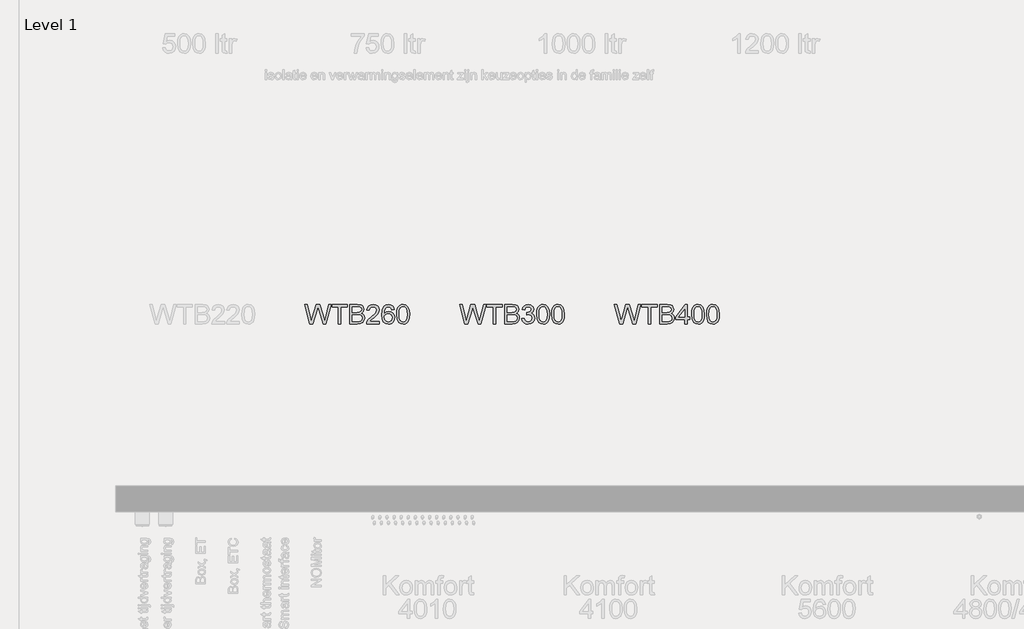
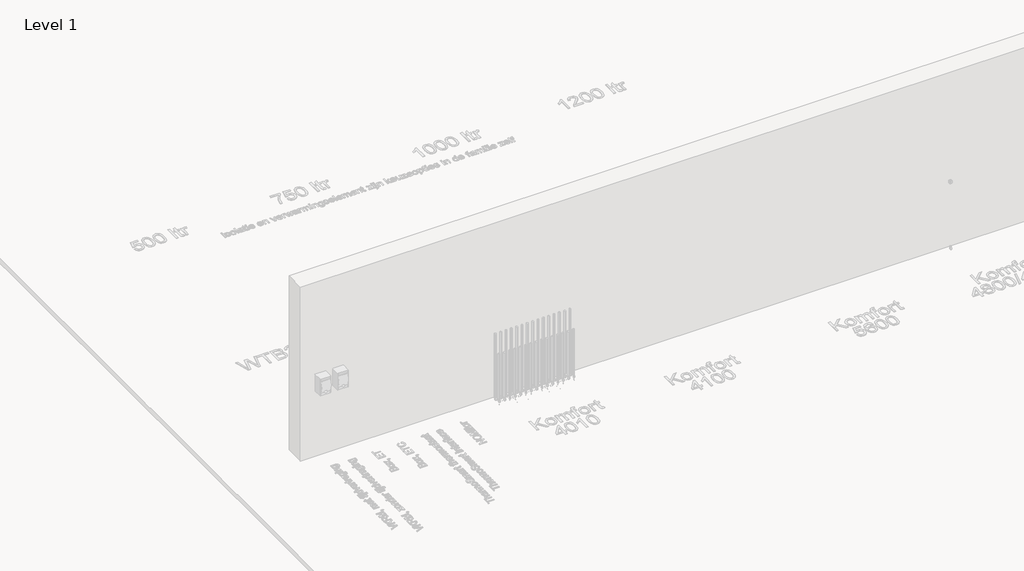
# One storey, part 27 of 34: 3 proxies.
"""IFC4 building model written with IfcOpenShell, lengths in millimetres."""

from ifc_helpers import new_model, si_unit, origin, origin_with_axes, place, context, project, spatial, polyline, outline, extrude, element, save

model = new_model("IFC4")

# Units and contexts
model_context = context("Model", 3, world=origin())
ifc_project = project(units=[si_unit("LENGTHUNIT", "METRE", prefix="MILLI")], contexts=[model_context])

# Site, building, storey
site = spatial("IfcSite", under=ifc_project)
building = spatial("IfcBuilding", under=site)
storey = spatial("IfcBuildingStorey", under=building, Name="Level 1", Elevation=0.0)

# Proxies
placement = place(None, origin())
element("IfcBuildingElementProxy", 1, Name="type", ObjectType="type", at=placement, inside=storey, context=model_context, shape_type="SweptSolid", body=[
    extrude(outline(polyline([(-13350.1602737, 9048.0579707), (-13391.2526925, 9198.7424359), (-13371.8285232, 9198.7424359), (-13347.9897699, 9099.7086028), (-13340.63213, 9069.137609), (-13332.7594553, 9096.1769356), (-13302.8874373, 9198.7424359), (-13274.8916175, 9198.7424359), (-13253.1865797, 9124.3934847), (-13237.0365602, 9069.137609), (-13229.8996495, 9098.825686), (-13205.840167, 9198.7424359), (-13186.4159976, 9198.7424359), (-13227.5452047, 9048.0579707), (-13247.6683498, 9048.0579707), (-13283.7943617, 9164.3086811), (-13288.8343451, 9180.5322771), (-13294.4997278, 9160.9977432), (-13327.4251664, 9048.0579707), (-13350.1602737, 9048.0579707)])), origin_with_axes(), (0.0, 0.0, 1.0), 5.0),
    extrude(outline(polyline([(-13129.9093232, 9048.0579707), (-13129.9093232, 9179.9068777), (-13179.3526633, 9179.9068777), (-13179.3526633, 9198.7424359), (-13061.6304249, 9198.7424359), (-13061.6304249, 9179.9068777), (-13111.073765, 9179.9068777), (-13111.073765, 9048.0579707), (-13129.9093232, 9048.0579707)])), origin_with_axes(), (0.0, 0.0, 1.0), 5.0),
    extrude(outline(polyline([(-13040.4404219, 9048.0579707), (-13040.4404219, 9198.7424359), (-12982.9404661, 9198.7424359), (-12954.7790994, 9194.3094578), (-12945.315335, 9188.6854618), (-12938.1508332, 9180.6794299), (-12932.1359626, 9161.4024134), (-12937.19434, 9143.7992599), (-12952.4798369, 9130.4635376), (-12941.8066605, 9124.8901254), (-12933.9201902, 9116.4104454), (-12929.0503523, 9105.5855177), (-12927.427073, 9092.9763623), (-12931.8600511, 9072.7244584), (-12942.8413286, 9058.3034842), (-12959.2304715, 9050.6515387), (-12983.3819245, 9048.0579707), (-13040.4404219, 9048.0579707)]), holes=[polyline([(-13021.6048638, 9066.8935288), (-12982.9772543, 9066.8935288), (-12968.9977385, 9067.6292928), (-12957.1703323, 9071.7311771), (-12949.3344458, 9080.1004924), (-12946.2626312, 9092.7924213), (-12949.8678747, 9107.4341247), (-12961.5481281, 9116.1713221), (-12984.8166643, 9118.6913137), (-13021.6048638, 9118.6913137), (-13021.6048638, 9066.8935288)]), polyline([(-13021.6048638, 9137.5268719), (-12987.2078972, 9137.5268719), (-12967.1215403, 9139.1455527), (-12955.0366168, 9146.1169165), (-12950.9715207, 9158.385781), (-12954.7607053, 9170.6730397), (-12965.6132241, 9177.9387091), (-12989.8198594, 9179.9068777), (-13021.6048638, 9179.9068777), (-13021.6048638, 9137.5268719)])]), origin_with_axes(), (0.0, 0.0, 1.0), 5.0),
    extrude(outline(polyline([(-12847.3759509, 9048.0579707), (-12847.3759509, 9083.3746422), (-12915.6548492, 9083.3746422), (-12915.6548492, 9102.2102004), (-12842.6670613, 9196.3879911), (-12828.5403927, 9196.3879911), (-12828.5403927, 9102.2102004), (-12809.7048346, 9102.2102004), (-12809.7048346, 9083.3746422), (-12828.5403927, 9083.3746422), (-12828.5403927, 9048.0579707), (-12847.3759509, 9048.0579707)]), holes=[polyline([(-12847.3759509, 9102.2102004), (-12847.3759509, 9160.409132), (-12892.4782835, 9102.2102004), (-12847.3759509, 9102.2102004)])]), origin_with_axes(), (0.0, 0.0, 1.0), 5.0),
    extrude(outline(polyline([(-12793.2237212, 9122.1861927), (-12791.8395652, 9146.305456), (-12787.6870972, 9165.5410858), (-12780.8077038, 9180.1873878), (-12771.242772, 9190.5386674), (-12758.9233237, 9196.6914938), (-12743.780381, 9198.7424359), (-12721.7810377, 9193.8863936), (-12706.5875113, 9179.8884836), (-12697.7583434, 9157.5948347), (-12694.3370409, 9122.1861927), (-12695.7074013, 9098.2048851), (-12699.8184826, 9079.0152406), (-12706.6564892, 9064.3551431), (-12716.2076255, 9053.9624767), (-12728.554665, 9047.7682636), (-12743.780381, 9045.7035259), (-12763.3517032, 9049.2903753), (-12778.2141358, 9060.0509237), (-12789.4713248, 9085.5359489), (-12793.2237212, 9122.1861927)]), holes=[polyline([(-12774.388163, 9122.2229809), (-12772.1808711, 9092.5946847), (-12765.5589951, 9075.4467852), (-12755.6997577, 9067.2660093), (-12743.780381, 9064.539084), (-12731.8610044, 9067.2752064), (-12722.0017669, 9075.4835734), (-12715.379891, 9092.64067), (-12713.172599, 9122.2229809), (-12715.3063146, 9151.184491), (-12721.7074613, 9168.4657477), (-12731.5483047, 9177.0465952), (-12744.0011102, 9179.9068777), (-12755.7917282, 9177.3868861), (-12765.2646895, 9169.8269111), (-12772.1072947, 9151.4695995), (-12774.388163, 9122.2229809)])]), origin_with_axes(), (0.0, 0.0, 1.0), 5.0),
    extrude(outline(polyline([(-12677.8559275, 9122.1861927), (-12676.4717715, 9146.305456), (-12672.3193035, 9165.5410858), (-12665.4399102, 9180.1873878), (-12655.8749783, 9190.5386674), (-12643.55553, 9196.6914938), (-12628.4125873, 9198.7424359), (-12606.413244, 9193.8863936), (-12591.2197176, 9179.8884836), (-12582.3905497, 9157.5948347), (-12578.9692472, 9122.1861927), (-12580.3396076, 9098.2048851), (-12584.4506889, 9079.0152406), (-12591.2886955, 9064.3551431), (-12600.8398318, 9053.9624767), (-12613.1868713, 9047.7682636), (-12628.4125873, 9045.7035259), (-12647.9839095, 9049.2903753), (-12662.8463421, 9060.0509237), (-12674.1035311, 9085.5359489), (-12677.8559275, 9122.1861927)]), holes=[polyline([(-12659.0203693, 9122.2229809), (-12656.8130774, 9092.5946847), (-12650.1912015, 9075.4467852), (-12640.331964, 9067.2660093), (-12628.4125873, 9064.539084), (-12616.4932107, 9067.2752064), (-12606.6339732, 9075.4835734), (-12600.0120973, 9092.64067), (-12597.8048053, 9122.2229809), (-12599.9385209, 9151.184491), (-12606.3396676, 9168.4657477), (-12616.180511, 9177.0465952), (-12628.6333165, 9179.9068777), (-12640.4239345, 9177.3868861), (-12649.8968959, 9169.8269111), (-12656.739501, 9151.4695995), (-12659.0203693, 9122.2229809)])]), origin_with_axes(), (0.0, 0.0, 1.0), 5.0),
])
element("IfcBuildingElementProxy", 2, Name="type", ObjectType="type", at=placement, inside=storey, context=model_context, shape_type="SweptSolid", body=[
    extrude(outline(polyline([(-14550.1602737, 9048.0579707), (-14591.2526925, 9198.7424359), (-14571.8285232, 9198.7424359), (-14547.9897699, 9099.7086028), (-14540.63213, 9069.137609), (-14532.7594553, 9096.1769356), (-14502.8874373, 9198.7424359), (-14474.8916175, 9198.7424359), (-14453.1865797, 9124.3934847), (-14437.0365602, 9069.137609), (-14429.8996495, 9098.825686), (-14405.840167, 9198.7424359), (-14386.4159976, 9198.7424359), (-14427.5452047, 9048.0579707), (-14447.6683498, 9048.0579707), (-14483.7943617, 9164.3086811), (-14488.8343451, 9180.5322771), (-14494.4997278, 9160.9977432), (-14527.4251664, 9048.0579707), (-14550.1602737, 9048.0579707)])), origin_with_axes(), (0.0, 0.0, 1.0), 5.0),
    extrude(outline(polyline([(-14329.9093232, 9048.0579707), (-14329.9093232, 9179.9068777), (-14379.3526633, 9179.9068777), (-14379.3526633, 9198.7424359), (-14261.6304249, 9198.7424359), (-14261.6304249, 9179.9068777), (-14311.073765, 9179.9068777), (-14311.073765, 9048.0579707), (-14329.9093232, 9048.0579707)])), origin_with_axes(), (0.0, 0.0, 1.0), 5.0),
    extrude(outline(polyline([(-14240.4404219, 9048.0579707), (-14240.4404219, 9198.7424359), (-14182.9404661, 9198.7424359), (-14154.7790994, 9194.3094578), (-14145.315335, 9188.6854618), (-14138.1508332, 9180.6794299), (-14132.1359626, 9161.4024134), (-14137.19434, 9143.7992599), (-14152.4798369, 9130.4635376), (-14141.8066605, 9124.8901254), (-14133.9201902, 9116.4104454), (-14129.0503523, 9105.5855177), (-14127.427073, 9092.9763623), (-14131.8600511, 9072.7244584), (-14142.8413286, 9058.3034842), (-14159.2304715, 9050.6515387), (-14183.3819245, 9048.0579707), (-14240.4404219, 9048.0579707)]), holes=[polyline([(-14221.6048638, 9066.8935288), (-14182.9772543, 9066.8935288), (-14168.9977385, 9067.6292928), (-14157.1703323, 9071.7311771), (-14149.3344458, 9080.1004924), (-14146.2626312, 9092.7924213), (-14149.8678747, 9107.4341247), (-14161.5481281, 9116.1713221), (-14184.8166643, 9118.6913137), (-14221.6048638, 9118.6913137), (-14221.6048638, 9066.8935288)]), polyline([(-14221.6048638, 9137.5268719), (-14187.2078972, 9137.5268719), (-14167.1215403, 9139.1455527), (-14155.0366168, 9146.1169165), (-14150.9715207, 9158.385781), (-14154.7607053, 9170.6730397), (-14165.6132241, 9177.9387091), (-14189.8198594, 9179.9068777), (-14221.6048638, 9179.9068777), (-14221.6048638, 9137.5268719)])]), origin_with_axes(), (0.0, 0.0, 1.0), 5.0),
    extrude(outline(polyline([(-14108.5915149, 9088.0835317), (-14089.7559567, 9090.4379765), (-14085.5391093, 9078.6013733), (-14079.3632904, 9070.609137), (-14070.9249971, 9066.0565973), (-14059.9207269, 9064.539084), (-14047.0080689, 9066.6268144), (-14037.0384668, 9072.8900053), (-14030.6649112, 9082.234208), (-14028.5403927, 9093.5649735), (-14030.6465171, 9104.3209233), (-14036.9648904, 9113.0443251), (-14046.5298223, 9118.824671), (-14058.3756225, 9120.7514529), (-14071.5825862, 9118.6913137), (-14069.4856588, 9137.5268719), (-14066.4690264, 9137.3061427), (-14045.0950825, 9142.714008), (-14037.9765659, 9149.5750072), (-14035.603727, 9159.3422742), (-14037.3235754, 9167.4770648), (-14042.4831203, 9174.0759481), (-14050.355795, 9178.4491453), (-14060.2150325, 9179.9068777), (-14070.0926641, 9178.4353498), (-14078.1676739, 9174.0207658), (-14084.0629828, 9166.6631259), (-14087.4015119, 9156.36243), (-14106.2370701, 9158.7168748), (-14100.691249, 9175.6302495), (-14090.8228145, 9188.257799), (-14077.3215453, 9196.1212767), (-14060.8772201, 9198.7424359), (-14038.1605069, 9193.5736939), (-14022.2680047, 9179.4470252), (-14016.7681689, 9160.4459202), (-14021.9920932, 9143.08189), (-14037.443137, 9130.6106904), (-14025.6525191, 9125.8466185), (-14016.9153217, 9117.7348206), (-14011.5074563, 9106.7167548), (-14009.7048346, 9093.2338797), (-14013.3100781, 9074.8765681), (-14024.1258088, 9059.5358889), (-14040.4505723, 9049.1616166), (-14060.5829145, 9045.7035259), (-14078.7930733, 9048.6557789), (-14093.6187177, 9057.5125379), (-14103.9286106, 9071.0597924), (-14108.5915149, 9088.0835317)])), origin_with_axes(), (0.0, 0.0, 1.0), 5.0),
    extrude(outline(polyline([(-13993.2237212, 9122.1861927), (-13991.8395652, 9146.305456), (-13987.6870972, 9165.5410858), (-13980.8077038, 9180.1873878), (-13971.242772, 9190.5386674), (-13958.9233237, 9196.6914938), (-13943.780381, 9198.7424359), (-13921.7810377, 9193.8863936), (-13906.5875113, 9179.8884836), (-13897.7583434, 9157.5948347), (-13894.3370409, 9122.1861927), (-13895.7074013, 9098.2048851), (-13899.8184826, 9079.0152406), (-13906.6564892, 9064.3551431), (-13916.2076255, 9053.9624767), (-13928.554665, 9047.7682636), (-13943.780381, 9045.7035259), (-13963.3517032, 9049.2903753), (-13978.2141358, 9060.0509237), (-13989.4713248, 9085.5359489), (-13993.2237212, 9122.1861927)]), holes=[polyline([(-13974.388163, 9122.2229809), (-13972.1808711, 9092.5946847), (-13965.5589951, 9075.4467852), (-13955.6997577, 9067.2660093), (-13943.780381, 9064.539084), (-13931.8610044, 9067.2752064), (-13922.0017669, 9075.4835734), (-13915.379891, 9092.64067), (-13913.172599, 9122.2229809), (-13915.3063146, 9151.184491), (-13921.7074613, 9168.4657477), (-13931.5483047, 9177.0465952), (-13944.0011102, 9179.9068777), (-13955.7917282, 9177.3868861), (-13965.2646895, 9169.8269111), (-13972.1072947, 9151.4695995), (-13974.388163, 9122.2229809)])]), origin_with_axes(), (0.0, 0.0, 1.0), 5.0),
    extrude(outline(polyline([(-13877.8559275, 9122.1861927), (-13876.4717715, 9146.305456), (-13872.3193035, 9165.5410858), (-13865.4399102, 9180.1873878), (-13855.8749783, 9190.5386674), (-13843.55553, 9196.6914938), (-13828.4125873, 9198.7424359), (-13806.413244, 9193.8863936), (-13791.2197176, 9179.8884836), (-13782.3905497, 9157.5948347), (-13778.9692472, 9122.1861927), (-13780.3396076, 9098.2048851), (-13784.4506889, 9079.0152406), (-13791.2886955, 9064.3551431), (-13800.8398318, 9053.9624767), (-13813.1868713, 9047.7682636), (-13828.4125873, 9045.7035259), (-13847.9839095, 9049.2903753), (-13862.8463421, 9060.0509237), (-13874.1035311, 9085.5359489), (-13877.8559275, 9122.1861927)]), holes=[polyline([(-13859.0203693, 9122.2229809), (-13856.8130774, 9092.5946847), (-13850.1912015, 9075.4467852), (-13840.331964, 9067.2660093), (-13828.4125873, 9064.539084), (-13816.4932107, 9067.2752064), (-13806.6339732, 9075.4835734), (-13800.0120973, 9092.64067), (-13797.8048053, 9122.2229809), (-13799.9385209, 9151.184491), (-13806.3396676, 9168.4657477), (-13816.180511, 9177.0465952), (-13828.6333165, 9179.9068777), (-13840.4239345, 9177.3868861), (-13849.8968959, 9169.8269111), (-13856.739501, 9151.4695995), (-13859.0203693, 9122.2229809)])]), origin_with_axes(), (0.0, 0.0, 1.0), 5.0),
])
element("IfcBuildingElementProxy", 3, Name="type", ObjectType="type", at=placement, inside=storey, context=model_context, shape_type="SweptSolid", body=[
    extrude(outline(polyline([(-15750.1602737, 9048.0579707), (-15791.2526925, 9198.7424359), (-15771.8285232, 9198.7424359), (-15747.9897699, 9099.7086028), (-15740.63213, 9069.137609), (-15732.7594553, 9096.1769356), (-15702.8874373, 9198.7424359), (-15674.8916175, 9198.7424359), (-15653.1865797, 9124.3934847), (-15637.0365602, 9069.137609), (-15629.8996495, 9098.825686), (-15605.840167, 9198.7424359), (-15586.4159976, 9198.7424359), (-15627.5452047, 9048.0579707), (-15647.6683498, 9048.0579707), (-15683.7943617, 9164.3086811), (-15688.8343451, 9180.5322771), (-15694.4997278, 9160.9977432), (-15727.4251664, 9048.0579707), (-15750.1602737, 9048.0579707)])), origin_with_axes(), (0.0, 0.0, 1.0), 5.0),
    extrude(outline(polyline([(-15529.9093232, 9048.0579707), (-15529.9093232, 9179.9068777), (-15579.3526633, 9179.9068777), (-15579.3526633, 9198.7424359), (-15461.6304249, 9198.7424359), (-15461.6304249, 9179.9068777), (-15511.073765, 9179.9068777), (-15511.073765, 9048.0579707), (-15529.9093232, 9048.0579707)])), origin_with_axes(), (0.0, 0.0, 1.0), 5.0),
    extrude(outline(polyline([(-15440.4404219, 9048.0579707), (-15440.4404219, 9198.7424359), (-15382.9404661, 9198.7424359), (-15354.7790994, 9194.3094578), (-15345.315335, 9188.6854618), (-15338.1508332, 9180.6794299), (-15332.1359626, 9161.4024134), (-15337.19434, 9143.7992599), (-15352.4798369, 9130.4635376), (-15341.8066605, 9124.8901254), (-15333.9201902, 9116.4104454), (-15329.0503523, 9105.5855177), (-15327.427073, 9092.9763623), (-15331.8600511, 9072.7244584), (-15342.8413286, 9058.3034842), (-15359.2304715, 9050.6515387), (-15383.3819245, 9048.0579707), (-15440.4404219, 9048.0579707)]), holes=[polyline([(-15421.6048638, 9066.8935288), (-15382.9772543, 9066.8935288), (-15368.9977385, 9067.6292928), (-15357.1703323, 9071.7311771), (-15349.3344458, 9080.1004924), (-15346.2626312, 9092.7924213), (-15349.8678747, 9107.4341247), (-15361.5481281, 9116.1713221), (-15384.8166643, 9118.6913137), (-15421.6048638, 9118.6913137), (-15421.6048638, 9066.8935288)]), polyline([(-15421.6048638, 9137.5268719), (-15387.2078972, 9137.5268719), (-15367.1215403, 9139.1455527), (-15355.0366168, 9146.1169165), (-15350.9715207, 9158.385781), (-15354.7607053, 9170.6730397), (-15365.6132241, 9177.9387091), (-15389.8198594, 9179.9068777), (-15421.6048638, 9179.9068777), (-15421.6048638, 9137.5268719)])]), origin_with_axes(), (0.0, 0.0, 1.0), 5.0),
    extrude(outline(polyline([(-15212.0592793, 9066.8935288), (-15212.0592793, 9048.0579707), (-15310.9459596, 9048.0579707), (-15308.9226087, 9061.0442051), (-15297.4814786, 9081.0385915), (-15273.9002427, 9102.8723879), (-15241.3794743, 9134.2527221), (-15235.2818303, 9145.0684528), (-15233.2492823, 9155.5898779), (-15235.1668672, 9165.0214525), (-15240.9196219, 9172.8619375), (-15249.7625853, 9178.1456427), (-15260.9507965, 9179.9068777), (-15272.7000277, 9178.1870294), (-15281.8280997, 9173.0274844), (-15287.7188102, 9164.832913), (-15289.7559567, 9154.0079853), (-15308.5915149, 9156.36243), (-15304.0251796, 9174.5817859), (-15294.1521466, 9187.889917), (-15279.4874505, 9196.0293062), (-15260.5461263, 9198.7424359), (-15241.4668463, 9195.7258035), (-15226.8297414, 9186.6759064), (-15217.5177284, 9173.1562431), (-15214.4137241, 9156.730312), (-15217.7614503, 9138.8696412), (-15228.8898806, 9120.401965), (-15255.874025, 9094.5950431), (-15277.5422745, 9076.4768548), (-15286.0403486, 9066.8935288), (-15212.0592793, 9066.8935288)])), origin_with_axes(), (0.0, 0.0, 1.0), 5.0),
    extrude(outline(polyline([(-15096.6914856, 9158.7168748), (-15115.5270438, 9156.36243), (-15122.6639545, 9172.0709912), (-15131.2080138, 9177.9479061), (-15141.5363009, 9179.9068777), (-15158.532449, 9175.345141), (-15171.3899248, 9158.2202341), (-15175.2940724, 9144.1901345), (-15176.7426078, 9124.6510021), (-15160.1327357, 9139.6789816), (-15139.5497381, 9144.5902062), (-15122.1489197, 9141.233283), (-15107.5440045, 9131.1625134), (-15097.6387818, 9115.7758489), (-15094.3370409, 9096.4712412), (-15095.8913423, 9082.9837676), (-15100.5542466, 9070.4803783), (-15107.9394776, 9059.8761798), (-15117.6607594, 9052.0862785), (-15129.2766334, 9047.299214), (-15142.3456412, 9045.7035259), (-15163.7149866, 9049.9341688), (-15180.7341274, 9062.6260977), (-15191.8671563, 9085.0301112), (-15195.5781659, 9118.3970081), (-15191.4578876, 9155.9117746), (-15179.0970526, 9181.5623467), (-15162.220466, 9194.4474136), (-15140.3590785, 9198.7424359), (-15123.8319798, 9196.0844885), (-15110.5974251, 9188.1106462), (-15101.3267988, 9175.4463085), (-15096.6914856, 9158.7168748)]), holes=[polyline([(-15176.7426078, 9096.7655468), (-15172.3832062, 9080.4499803), (-15160.7949233, 9068.6041801), (-15143.8171692, 9064.539084), (-15131.3873563, 9066.6452085), (-15121.6154908, 9072.9635817), (-15115.283322, 9082.8963956), (-15113.172599, 9095.8458418), (-15115.2557308, 9108.2756547), (-15121.5051262, 9117.7532147), (-15131.4425386, 9123.7542897), (-15144.5897214, 9125.754648), (-15157.0011402, 9123.7542897), (-15167.380011, 9117.7532147), (-15174.4019586, 9108.505581), (-15176.7426078, 9096.7655468)])]), origin_with_axes(), (0.0, 0.0, 1.0), 5.0),
    extrude(outline(polyline([(-15077.8559275, 9122.1861927), (-15076.4717715, 9146.305456), (-15072.3193035, 9165.5410858), (-15065.4399102, 9180.1873878), (-15055.8749783, 9190.5386674), (-15043.55553, 9196.6914938), (-15028.4125873, 9198.7424359), (-15006.413244, 9193.8863936), (-14991.2197176, 9179.8884836), (-14982.3905497, 9157.5948347), (-14978.9692472, 9122.1861927), (-14980.3396076, 9098.2048851), (-14984.4506889, 9079.0152406), (-14991.2886955, 9064.3551431), (-15000.8398318, 9053.9624767), (-15013.1868713, 9047.7682636), (-15028.4125873, 9045.7035259), (-15047.9839095, 9049.2903753), (-15062.8463421, 9060.0509237), (-15074.1035311, 9085.5359489), (-15077.8559275, 9122.1861927)]), holes=[polyline([(-15059.0203693, 9122.2229809), (-15056.8130774, 9092.5946847), (-15050.1912015, 9075.4467852), (-15040.331964, 9067.2660093), (-15028.4125873, 9064.539084), (-15016.4932107, 9067.2752064), (-15006.6339732, 9075.4835734), (-15000.0120973, 9092.64067), (-14997.8048053, 9122.2229809), (-14999.9385209, 9151.184491), (-15006.3396676, 9168.4657477), (-15016.180511, 9177.0465952), (-15028.6333165, 9179.9068777), (-15040.4239345, 9177.3868861), (-15049.8968959, 9169.8269111), (-15056.739501, 9151.4695995), (-15059.0203693, 9122.2229809)])]), origin_with_axes(), (0.0, 0.0, 1.0), 5.0),
])

save(model, "model.ifc")
